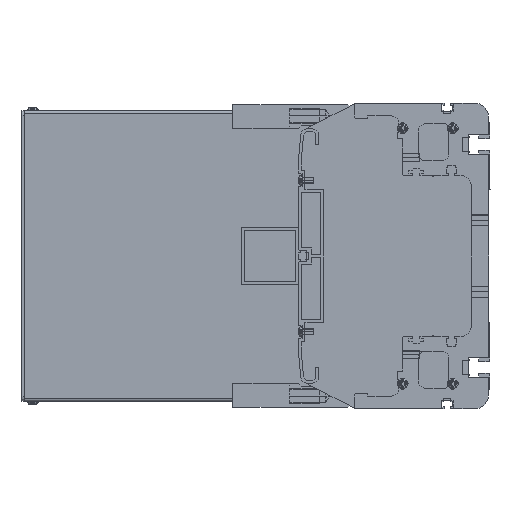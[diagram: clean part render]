
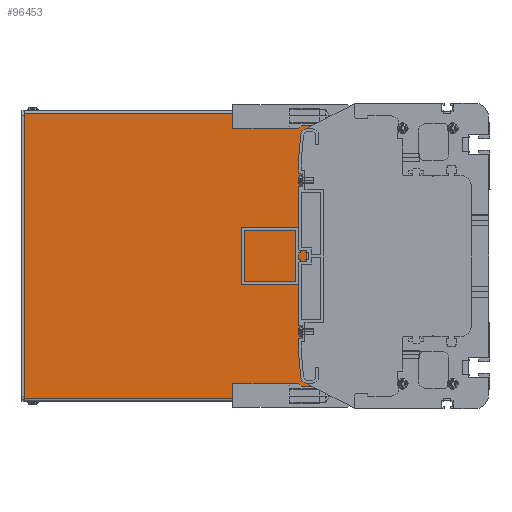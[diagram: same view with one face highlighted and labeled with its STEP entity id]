
A CAD part, left-side view. The second image highlights one B-rep face of the part: STEP entity #96453.
In plain terms, the highlighted planar face has unit normal (-1, 0, 0).
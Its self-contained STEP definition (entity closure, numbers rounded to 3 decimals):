
#95638=DIRECTION('',(0.,-1.,0.));
#95639=VECTOR('',#95638,231.);
#95640=CARTESIAN_POINT('',(-134.5,326.,-100.));
#95641=LINE('',#95640,#95639);
#95642=DIRECTION('',(0.,0.,-1.));
#95643=VECTOR('',#95642,200.);
#95644=CARTESIAN_POINT('',(-134.5,326.,100.));
#95645=LINE('',#95644,#95643);
#95646=DIRECTION('',(0.,0.,1.));
#95647=VECTOR('',#95646,200.);
#95648=CARTESIAN_POINT('',(-134.5,95.,-100.));
#95649=LINE('',#95648,#95647);
#95650=DIRECTION('',(0.,1.,0.));
#95651=VECTOR('',#95650,231.);
#95652=CARTESIAN_POINT('',(-134.5,95.,100.));
#95653=LINE('',#95652,#95651);
#96002=CARTESIAN_POINT('',(-134.5,95.,100.));
#96003=VERTEX_POINT('',#96002);
#96004=CARTESIAN_POINT('',(-134.5,95.,-100.));
#96005=VERTEX_POINT('',#96004);
#96070=CARTESIAN_POINT('',(-134.5,326.,100.));
#96071=VERTEX_POINT('',#96070);
#96072=CARTESIAN_POINT('',(-134.5,326.,-100.));
#96073=VERTEX_POINT('',#96072);
#96441=CARTESIAN_POINT('',(-134.5,210.5,0.));
#96442=DIRECTION('',(1.,0.,0.));
#96443=DIRECTION('',(0.,0.,1.));
#96444=AXIS2_PLACEMENT_3D('',#96441,#96442,#96443);
#96445=PLANE('',#96444);
#96446=ORIENTED_EDGE('',*,*,#96436,.F.);
#96447=ORIENTED_EDGE('',*,*,#96321,.F.);
#96449=ORIENTED_EDGE('',*,*,#96448,.F.);
#96450=ORIENTED_EDGE('',*,*,#96195,.F.);
#96451=EDGE_LOOP('',(#96446,#96447,#96449,#96450));
#96452=FACE_OUTER_BOUND('',#96451,.F.);
#96453=ADVANCED_FACE('',(#96452),#96445,.F.);
#96195=EDGE_CURVE('',#96005,#96003,#95649,.T.);
#96321=EDGE_CURVE('',#96071,#96073,#95645,.T.);
#96436=EDGE_CURVE('',#96073,#96005,#95641,.T.);
#96448=EDGE_CURVE('',#96003,#96071,#95653,.T.);
